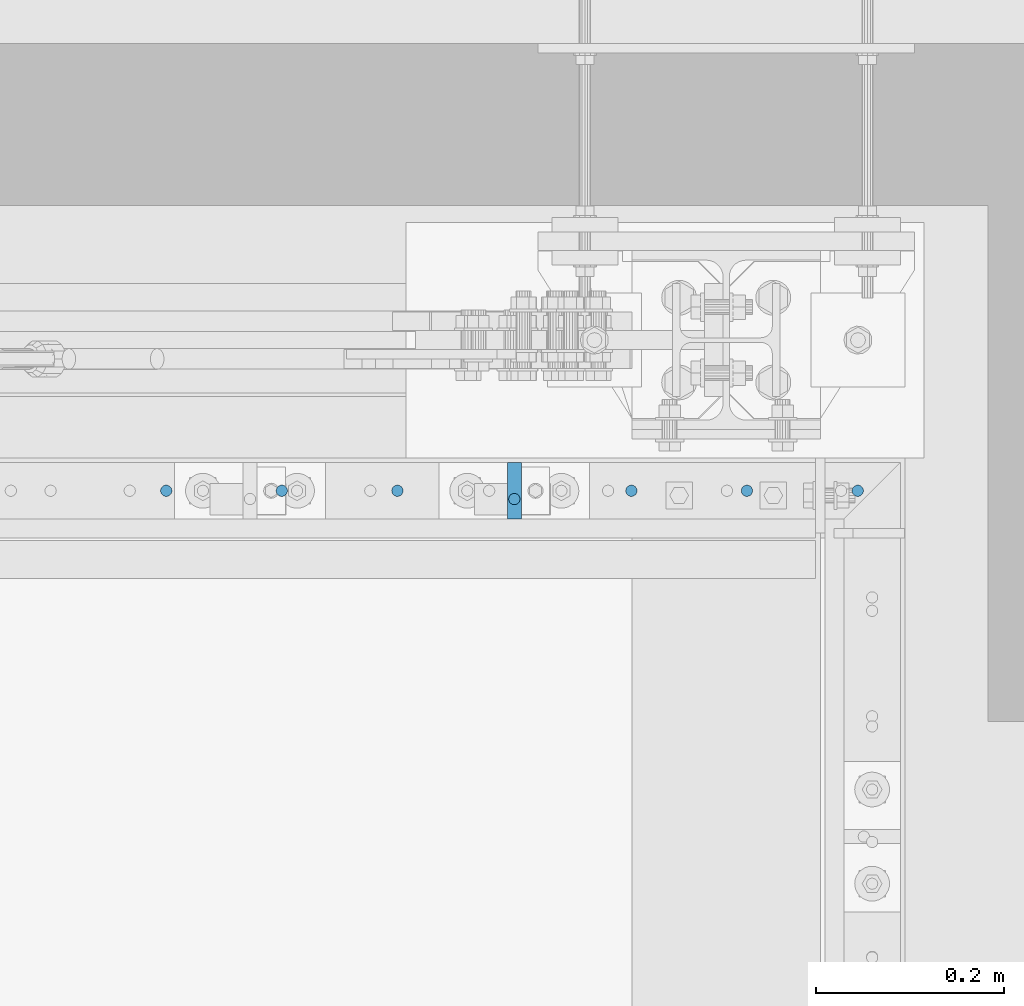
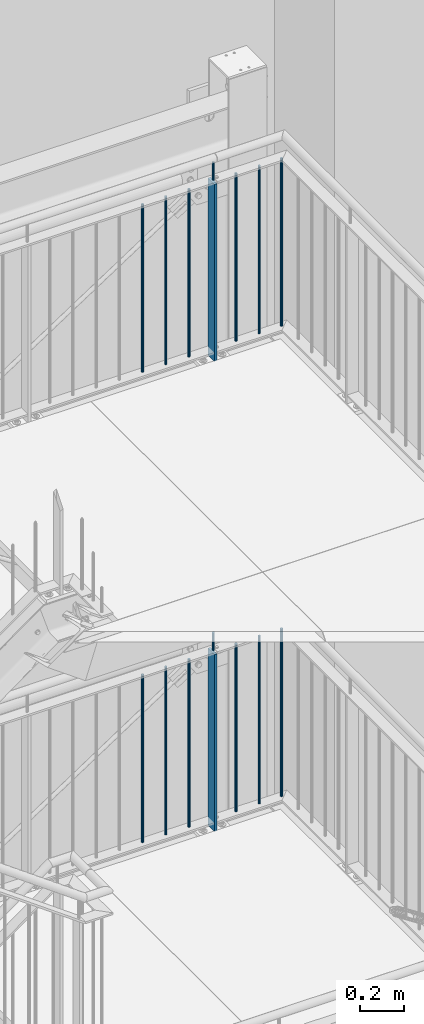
# One storey, part 110 of 831: 16 columns.
"""IFC2X3 building model written with IfcOpenShell, lengths in millimetres."""

import ifcopenshell
import ifcopenshell.guid

model = None  # the IFC model being written
_history = None  # IfcOwnerHistory: only IFC2X3 demands one
_inside = {}  # id of a spatial element -> (the spatial element, [elements in it])
_under = {}  # id of a project, library or spatial element -> (it, [spatial elements below it])
_declared = {}  # id of a project -> (the project, [libraries it declares])
_typed = {}  # id of a type object -> (the type object, [elements of that type])
_made_of = {}  # id of a material, layer set ... -> (it, [elements and type objects made of it])


def new_model(schema):
    """Start an empty IFC model of exactly this schema.

    Asked for "IFC4X3", IfcOpenShell would pick the latest addendum, in which some entities
    have other attributes; the version numbers below select the first issue.
    IFC2X3 requires an IfcOwnerHistory on every rooted entity: one is made here for all.
    """
    global model, _history
    if schema == "IFC4X3":
        model = ifcopenshell.file(schema_version=(4, 3, 0, 0))
    else:
        model = ifcopenshell.file(schema=schema)
    _inside.clear()
    _under.clear()
    _declared.clear()
    _typed.clear()
    _made_of.clear()
    _history = None
    if model.schema == "IFC2X3":
        org = make("IfcOrganization", Name="unknown")
        user = make(
            "IfcPersonAndOrganization",
            ThePerson=make("IfcPerson", FamilyName="unknown"),
            TheOrganization=org,
        )
        app = make(
            "IfcApplication",
            ApplicationDeveloper=org,
            Version="unknown",
            ApplicationFullName="unknown",
            ApplicationIdentifier="unknown",
        )
        _history = make(
            "IfcOwnerHistory",
            OwningUser=user,
            OwningApplication=app,
            ChangeAction="ADDED",
            CreationDate=0,
        )
    return model


def make(cls, **values):
    """One entity of the class cls with the attributes given. An attribute that is None is left unset."""
    return model.create_entity(
        cls, **{name: value for name, value in values.items() if value is not None}
    )


def entity(cls, *values):
    """Any entity or typed value of the class cls, its attributes in the order of the schema. None: left unset."""
    e = model.create_entity(cls)
    for i, value in enumerate(values):
        if value is not None:
            e[i] = value
    return e


def rooted(cls, **values):
    """An entity with a GlobalId (a new one), such as an element, a storey or a relation."""
    return make(cls, GlobalId=ifcopenshell.guid.new(), OwnerHistory=_history, **values)


def si_unit(unit_type, name, prefix=None):
    """IfcSIUnit, for example si_unit("LENGTHUNIT", "METRE", prefix="MILLI")."""
    return make("IfcSIUnit", UnitType=unit_type, Prefix=prefix, Name=name)


def converted_unit(unit_type, name, factor, base, dimensions=None, offset=None):
    """IfcConversionBasedUnit, such as the inch: factor (a typed value) times the base unit."""
    return make(
        "IfcConversionBasedUnit"
        if offset is None
        else "IfcConversionBasedUnitWithOffset",
        ConversionOffset=offset,
        Dimensions=None
        if dimensions is None
        else entity("IfcDimensionalExponents", *dimensions),
        UnitType=unit_type,
        Name=name,
        ConversionFactor=make(
            "IfcMeasureWithUnit", ValueComponent=factor, UnitComponent=base
        ),
    )


def assignment(units):
    """IfcUnitAssignment: the units of a project."""
    return None if units is None else make("IfcUnitAssignment", Units=units)


def point(xyz):
    """IfcCartesianPoint."""
    return None if xyz is None else make("IfcCartesianPoint", Coordinates=xyz)


def direction(xyz):
    """IfcDirection."""
    return None if xyz is None else make("IfcDirection", DirectionRatios=xyz)


def frame(location, z_axis=None, x_axis=None):
    """IfcAxis2Placement3D, a coordinate frame: its origin and axes. An axis left out is left unset."""
    return make(
        "IfcAxis2Placement3D",
        Location=point(location),
        Axis=direction(z_axis),
        RefDirection=direction(x_axis),
    )


def frame_2d(location, x_axis=None):
    """IfcAxis2Placement2D, a coordinate frame in the plane: its origin and x axis."""
    return make(
        "IfcAxis2Placement2D", Location=point(location), RefDirection=direction(x_axis)
    )


def origin():
    """The frame at (0, 0, 0) with its axes left unset."""
    return frame((0.0, 0.0, 0.0))


def origin_with_axes():
    """The frame at (0, 0, 0) with the z axis (0, 0, 1) and the x axis (1, 0, 0) written out."""
    return frame((0.0, 0.0, 0.0), z_axis=(0.0, 0.0, 1.0), x_axis=(1.0, 0.0, 0.0))


def origin_2d():
    """The frame at (0, 0) in the plane with its x axis left unset."""
    return frame_2d((0.0, 0.0))


def place(relative_to, where):
    """IfcLocalPlacement: puts the frame where relative to a parent placement (None: the world)."""
    return make(
        "IfcLocalPlacement", PlacementRelTo=relative_to, RelativePlacement=where
    )


def context(
    kind, dimensions, precision=None, world=None, true_north=None, identifier=None
):
    """IfcGeometricRepresentationContext, for example the 3D "Model" context."""
    return make(
        "IfcGeometricRepresentationContext",
        ContextIdentifier=identifier,
        ContextType=kind,
        CoordinateSpaceDimension=dimensions,
        Precision=precision,
        WorldCoordinateSystem=world,
        TrueNorth=true_north,
    )


def project(units=None, contexts=None):
    """IfcProject with its units and contexts."""
    return rooted(
        "IfcProject",
        Name="project",
        RepresentationContexts=contexts,
        UnitsInContext=assignment(units),
    )


def spatial(cls, under=None, at=None, **own):
    """A site, building, storey or space (cls), placed at a placement, below another one or the project."""
    s = rooted(cls, ObjectPlacement=at, **own)
    if under is not None:
        _under.setdefault(under.id(), (under, []))[1].append(s)
    return s


def profile(cls, at=None, kind="AREA", **sizes):
    """A parametric profile (cls). Its sizes go by their IFC names, for example OverallWidth=200.0."""
    return make(cls, ProfileType=kind, Position=at, **sizes)


def rectangle(**sizes):
    """IfcRectangleProfileDef."""
    return profile("IfcRectangleProfileDef", **sizes)


def circle(**sizes):
    """IfcCircleProfileDef."""
    return profile("IfcCircleProfileDef", **sizes)


def extrude(swept, where, along, depth):
    """IfcExtrudedAreaSolid: the profile swept, set in the frame where, extruded along a direction by depth."""
    return make(
        "IfcExtrudedAreaSolid",
        SweptArea=swept,
        Position=where,
        ExtrudedDirection=direction(along),
        Depth=depth,
    )


def clip(a, b, op="DIFFERENCE"):
    """IfcBooleanClippingResult: the solid a cut by the half space b."""
    return make(
        "IfcBooleanClippingResult", Operator=op, FirstOperand=a, SecondOperand=b
    )


def halfspace(plane, agree):
    """IfcHalfSpaceSolid: all space on one side of the plane z = 0 of the frame plane."""
    return make(
        "IfcHalfSpaceSolid",
        BaseSurface=make("IfcPlane", Position=plane),
        AgreementFlag=agree,
    )


def shape(context_of_items, identifier, shape_type, items):
    """IfcShapeRepresentation: the items that make up one representation, for example the "Body"."""
    return make(
        "IfcShapeRepresentation",
        ContextOfItems=context_of_items,
        RepresentationIdentifier=identifier,
        RepresentationType=shape_type,
        Items=items,
    )


def material(Name=None, Category=None):
    """IfcMaterial."""
    return make("IfcMaterial", Name=Name, Category=Category)


def made_of(thing, what):
    """Note that an element or type object is made of a material, layer set ...; save() writes the relation."""
    if what is not None:
        _made_of.setdefault(what.id(), (what, []))[1].append(thing)
    return thing


def element(
    cls,
    number,
    at=None,
    inside=None,
    cuts=None,
    type_object=None,
    material=None,
    context=None,
    identifier="Body",
    shape_type=None,
    held_by="IfcProductDefinitionShape",
    body=None,
    shapes=None,
    **own,
):
    """One element of the class cls, such as IfcWall. Its Tag is "e" and its number.

    at: its placement. inside: the storey or other place that contains it. cuts: it is an
    opening in that element (IfcRelVoidsElement). A single representation is given by context,
    identifier, shape_type and body (its items); several are given by shapes. held_by: the class
    of the entity that holds the representations. save() writes the other relations.
    """
    e = rooted(cls, Tag="e%d" % number, ObjectPlacement=at, **own)
    if body is not None:
        shapes = [shape(context, identifier, shape_type, body)]
    if shapes is not None:
        e.Representation = make(held_by, Representations=shapes)
    if inside is not None:
        _inside.setdefault(inside.id(), (inside, []))[1].append(e)
    if cuts is not None:
        rooted(
            "IfcRelVoidsElement", RelatingBuildingElement=cuts, RelatedOpeningElement=e
        )
    if type_object is not None:
        _typed.setdefault(type_object.id(), (type_object, []))[1].append(e)
    return made_of(e, material)


def aggregate(whole, parts):
    """IfcRelAggregates: a whole, such as a stair, and the parts it consists of."""
    return rooted("IfcRelAggregates", RelatingObject=whole, RelatedObjects=parts)


def save(model, path):
    """Write the relations noted so far, then the file.

    IfcRelAggregates (storeys below a building ...), IfcRelContainedInSpatialStructure (elements
    in a storey), IfcRelDefinesByType, IfcRelAssociatesMaterial and IfcRelDeclares: one each for
    every whole, place, type object, material and project.
    """
    for whole, parts in _under.values():
        aggregate(whole, parts)
    for where, things in _inside.values():
        rooted(
            "IfcRelContainedInSpatialStructure",
            RelatedElements=things,
            RelatingStructure=where,
        )
    for kind, things in _typed.values():
        rooted("IfcRelDefinesByType", RelatedObjects=things, RelatingType=kind)
    for what, things in _made_of.values():
        rooted("IfcRelAssociatesMaterial", RelatedObjects=things, RelatingMaterial=what)
    for by, libraries in _declared.values():
        rooted("IfcRelDeclares", RelatingContext=by, RelatedDefinitions=libraries)
    model.write(path)


model = new_model("IFC2X3")

# Units and contexts
model_context = context("Model", 3, precision=1e-09, world=origin_with_axes())
ifc_project = project(units=[si_unit("LENGTHUNIT", "METRE", prefix="MILLI"), si_unit("AREAUNIT", "SQUARE_METRE"), si_unit("VOLUMEUNIT", "CUBIC_METRE"), converted_unit("PLANEANGLEUNIT", "DEGREE", entity("IfcPlaneAngleMeasure", 0.01745329), si_unit("PLANEANGLEUNIT", "RADIAN"), dimensions=[0, 0, 0, 0, 0, 0, 0])], contexts=[model_context])

# Site, building, storey
site_placement = place(None, origin_with_axes())
site = spatial("IfcSite", under=ifc_project, at=site_placement, Name="Site", CompositionType="ELEMENT")
building_placement = place(site_placement, origin_with_axes())
building = spatial("IfcBuilding", under=site, at=building_placement, Name="Struktur 1", CompositionType="ELEMENT")
storey_placement = place(building_placement, origin_with_axes())
storey = spatial("IfcBuildingStorey", under=building, at=storey_placement, Name="Default Storey", CompositionType="ELEMENT", Elevation=0.0)

# Columns
ifc_material = material(Name="S235JR")
column_1_placement = place(None, frame((8641.713974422, 7356.736971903, 14936.223292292), z_axis=(0.0, 0.0, 1.0), x_axis=(1.0, 0.0, 0.0)))
element("IfcColumn", 1, at=column_1_placement, inside=storey, material=ifc_material, Name="Railing_Post_Landing#4", ObjectType="Railing_Post_Landing#4", context=model_context, shape_type="Clipping", body=[
    clip(clip(extrude(rectangle(XDim=15.0, YDim=60.0, at=origin_2d()), origin(), (0.0, 0.0, -1.0), 1070.646584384), halfspace(frame((-8641.713974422, -7356.736971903, -1019.722292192), z_axis=(0.0, 0.0, 1.0), x_axis=(1.0, 0.0, 0.0)), True)), halfspace(frame((-8641.713974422, -7356.736971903, -30.924292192), z_axis=(0.0, 0.0, -1.0), x_axis=(-1.0, 0.0, 0.0)), True)),
])
column_2_placement = place(None, frame((8271.963926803, 7356.736971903, 14918.785281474), z_axis=(0.0, 0.0, 1.0), x_axis=(1.0, 0.0, 0.0)))
element("IfcColumn", 2, at=column_2_placement, inside=storey, material=ifc_material, Name="Railing_Picket_Landing#25", ObjectType="Railing_Picket_Landing#25", context=model_context, shape_type="Clipping", body=[
    clip(clip(extrude(circle(Radius=6.0, at=origin_2d()), origin(), (0.0, 0.0, -1.0), 965.770562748), halfspace(frame((-8271.963926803, -7356.736971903, -13.486281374), z_axis=(0.0, 0.0, -1.0), x_axis=(-1.0, 0.0, 0.0)), True)), halfspace(frame((-8271.963926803, -7356.736971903, -952.284281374), z_axis=(0.0, 0.0, 1.0), x_axis=(1.0, 0.0, 0.0)), True)),
])
column_3_placement = place(None, frame((8394.713950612, 7356.736971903, 14918.785281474), z_axis=(0.0, 0.0, 1.0), x_axis=(1.0, 0.0, 0.0)))
element("IfcColumn", 3, at=column_3_placement, inside=storey, material=ifc_material, Name="Railing_Picket_Landing#26", ObjectType="Railing_Picket_Landing#26", context=model_context, shape_type="Clipping", body=[
    clip(clip(extrude(circle(Radius=6.0, at=origin_2d()), origin(), (0.0, 0.0, -1.0), 965.770562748), halfspace(frame((-8394.713950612, -7356.736971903, -13.486281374), z_axis=(0.0, 0.0, -1.0), x_axis=(-1.0, 0.0, 0.0)), True)), halfspace(frame((-8394.713950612, -7356.736971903, -952.284281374), z_axis=(0.0, 0.0, 1.0), x_axis=(1.0, 0.0, 0.0)), True)),
])
column_4_placement = place(None, frame((8517.463974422, 7356.736971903, 14918.785281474), z_axis=(0.0, 0.0, 1.0), x_axis=(1.0, 0.0, 0.0)))
element("IfcColumn", 4, at=column_4_placement, inside=storey, material=ifc_material, Name="Railing_Picket_Landing#27", ObjectType="Railing_Picket_Landing#27", context=model_context, shape_type="Clipping", body=[
    clip(clip(extrude(circle(Radius=6.0, at=origin_2d()), origin(), (0.0, 0.0, -1.0), 965.770562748), halfspace(frame((-8517.463974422, -7356.736971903, -13.486281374), z_axis=(0.0, 0.0, -1.0), x_axis=(-1.0, 0.0, 0.0)), True)), halfspace(frame((-8517.463974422, -7356.736971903, -952.284281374), z_axis=(0.0, 0.0, 1.0), x_axis=(1.0, 0.0, 0.0)), True)),
])
column_5_placement = place(None, frame((8765.963974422, 7356.736971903, 14918.785281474), z_axis=(0.0, 0.0, 1.0), x_axis=(1.0, 0.0, 0.0)))
element("IfcColumn", 5, at=column_5_placement, inside=storey, material=ifc_material, Name="Railing_Picket_Landing#28", ObjectType="Railing_Picket_Landing#28", context=model_context, shape_type="Clipping", body=[
    clip(clip(extrude(circle(Radius=6.0, at=origin_2d()), origin(), (0.0, 0.0, -1.0), 965.770562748), halfspace(frame((-8765.963974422, -7356.736971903, -13.486281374), z_axis=(0.0, 0.0, -1.0), x_axis=(-1.0, 0.0, 0.0)), True)), halfspace(frame((-8765.963974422, -7356.736971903, -952.284281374), z_axis=(0.0, 0.0, 1.0), x_axis=(1.0, 0.0, 0.0)), True)),
])
column_6_placement = place(None, frame((8888.713998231, 7356.736971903, 14918.785281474), z_axis=(0.0, 0.0, 1.0), x_axis=(1.0, 0.0, 0.0)))
element("IfcColumn", 6, at=column_6_placement, inside=storey, material=ifc_material, Name="Railing_Picket_Landing#29", ObjectType="Railing_Picket_Landing#29", context=model_context, shape_type="Clipping", body=[
    clip(clip(extrude(circle(Radius=6.0, at=origin_2d()), origin(), (0.0, 0.0, -1.0), 965.770562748), halfspace(frame((-8888.713998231, -7356.736971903, -13.486281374), z_axis=(0.0, 0.0, -1.0), x_axis=(-1.0, 0.0, 0.0)), True)), halfspace(frame((-8888.713998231, -7356.736971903, -952.284281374), z_axis=(0.0, 0.0, 1.0), x_axis=(1.0, 0.0, 0.0)), True)),
])
column_7_placement = place(None, frame((9006.464022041, 7356.736971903, 14918.785281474), z_axis=(0.0, 0.0, 1.0), x_axis=(1.0, 0.0, 0.0)))
element("IfcColumn", 7, at=column_7_placement, inside=storey, material=ifc_material, Name="Railing_Picket_Landing#30", ObjectType="Railing_Picket_Landing#30", context=model_context, shape_type="Clipping", body=[
    clip(clip(extrude(circle(Radius=6.0, at=origin_2d()), origin(), (0.0, 0.0, -1.0), 965.770562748), halfspace(frame((-9006.464022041, -7356.736971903, -13.486281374), z_axis=(0.0, 0.0, -1.0), x_axis=(-1.0, 0.0, 0.0)), True)), halfspace(frame((-9006.464022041, -7356.736971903, -952.284281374), z_axis=(0.0, 0.0, 1.0), x_axis=(1.0, 0.0, 0.0)), True)),
])
column_8_placement = place(None, frame((8641.713974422, 7347.936971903, 15023.785281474), z_axis=(0.0, 0.0, 1.0), x_axis=(0.0, -1.0, 0.0)))
element("IfcColumn", 8, at=column_8_placement, inside=storey, material=ifc_material, Name="Bar#4", ObjectType="Bar#4", context=model_context, shape_type="Clipping", body=[
    clip(clip(extrude(circle(Radius=6.0, at=origin_2d()), origin(), (0.0, 0.0, -1.0), 116.970562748), halfspace(frame((7347.936971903, -8641.713974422, -8.486281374), z_axis=(0.0, 0.0, -1.0), x_axis=(0.0, -1.0, 0.0)), True)), halfspace(frame((7347.936971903, -8641.713974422, -108.484281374), z_axis=(0.0, 0.0, 1.0), x_axis=(0.0, 1.0, 0.0)), True)),
])
column_9_placement = place(None, frame((8641.713974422, 7356.736971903, 17563.723292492), z_axis=(0.0, 0.0, 1.0), x_axis=(1.0, 0.0, 0.0)))
element("IfcColumn", 9, at=column_9_placement, inside=storey, material=ifc_material, Name="Railing_Post_Landing#4", ObjectType="Railing_Post_Landing#4", context=model_context, shape_type="Clipping", body=[
    clip(clip(extrude(rectangle(XDim=15.0, YDim=60.0, at=origin_2d()), origin(), (0.0, 0.0, -1.0), 1070.646584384), halfspace(frame((-8641.713974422, -7356.736971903, -1019.722292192), z_axis=(0.0, 0.0, 1.0), x_axis=(1.0, 0.0, 0.0)), True)), halfspace(frame((-8641.713974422, -7356.736971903, -30.924292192), z_axis=(0.0, 0.0, -1.0), x_axis=(-1.0, 0.0, 0.0)), True)),
])
column_10_placement = place(None, frame((8271.963926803, 7356.736971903, 17546.285281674), z_axis=(0.0, 0.0, 1.0), x_axis=(1.0, 0.0, 0.0)))
element("IfcColumn", 10, at=column_10_placement, inside=storey, material=ifc_material, Name="Railing_Picket_Landing#25", ObjectType="Railing_Picket_Landing#25", context=model_context, shape_type="Clipping", body=[
    clip(clip(extrude(circle(Radius=6.0, at=origin_2d()), origin(), (0.0, 0.0, -1.0), 965.770562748), halfspace(frame((-8271.963926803, -7356.736971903, -13.486281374), z_axis=(0.0, 0.0, -1.0), x_axis=(-1.0, 0.0, 0.0)), True)), halfspace(frame((-8271.963926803, -7356.736971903, -952.284281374), z_axis=(0.0, 0.0, 1.0), x_axis=(1.0, 0.0, 0.0)), True)),
])
column_11_placement = place(None, frame((8394.713950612, 7356.736971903, 17546.285281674), z_axis=(0.0, 0.0, 1.0), x_axis=(1.0, 0.0, 0.0)))
element("IfcColumn", 11, at=column_11_placement, inside=storey, material=ifc_material, Name="Railing_Picket_Landing#26", ObjectType="Railing_Picket_Landing#26", context=model_context, shape_type="Clipping", body=[
    clip(clip(extrude(circle(Radius=6.0, at=origin_2d()), origin(), (0.0, 0.0, -1.0), 965.770562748), halfspace(frame((-8394.713950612, -7356.736971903, -13.486281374), z_axis=(0.0, 0.0, -1.0), x_axis=(-1.0, 0.0, 0.0)), True)), halfspace(frame((-8394.713950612, -7356.736971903, -952.284281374), z_axis=(0.0, 0.0, 1.0), x_axis=(1.0, 0.0, 0.0)), True)),
])
column_12_placement = place(None, frame((8517.463974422, 7356.736971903, 17546.285281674), z_axis=(0.0, 0.0, 1.0), x_axis=(1.0, 0.0, 0.0)))
element("IfcColumn", 12, at=column_12_placement, inside=storey, material=ifc_material, Name="Railing_Picket_Landing#27", ObjectType="Railing_Picket_Landing#27", context=model_context, shape_type="Clipping", body=[
    clip(clip(extrude(circle(Radius=6.0, at=origin_2d()), origin(), (0.0, 0.0, -1.0), 965.770562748), halfspace(frame((-8517.463974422, -7356.736971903, -13.486281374), z_axis=(0.0, 0.0, -1.0), x_axis=(-1.0, 0.0, 0.0)), True)), halfspace(frame((-8517.463974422, -7356.736971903, -952.284281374), z_axis=(0.0, 0.0, 1.0), x_axis=(1.0, 0.0, 0.0)), True)),
])
column_13_placement = place(None, frame((8765.963974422, 7356.736971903, 17546.285281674), z_axis=(0.0, 0.0, 1.0), x_axis=(1.0, 0.0, 0.0)))
element("IfcColumn", 13, at=column_13_placement, inside=storey, material=ifc_material, Name="Railing_Picket_Landing#28", ObjectType="Railing_Picket_Landing#28", context=model_context, shape_type="Clipping", body=[
    clip(clip(extrude(circle(Radius=6.0, at=origin_2d()), origin(), (0.0, 0.0, -1.0), 965.770562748), halfspace(frame((-8765.963974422, -7356.736971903, -13.486281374), z_axis=(0.0, 0.0, -1.0), x_axis=(-1.0, 0.0, 0.0)), True)), halfspace(frame((-8765.963974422, -7356.736971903, -952.284281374), z_axis=(0.0, 0.0, 1.0), x_axis=(1.0, 0.0, 0.0)), True)),
])
column_14_placement = place(None, frame((8888.713998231, 7356.736971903, 17546.285281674), z_axis=(0.0, 0.0, 1.0), x_axis=(1.0, 0.0, 0.0)))
element("IfcColumn", 14, at=column_14_placement, inside=storey, material=ifc_material, Name="Railing_Picket_Landing#29", ObjectType="Railing_Picket_Landing#29", context=model_context, shape_type="Clipping", body=[
    clip(clip(extrude(circle(Radius=6.0, at=origin_2d()), origin(), (0.0, 0.0, -1.0), 965.770562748), halfspace(frame((-8888.713998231, -7356.736971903, -13.486281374), z_axis=(0.0, 0.0, -1.0), x_axis=(-1.0, 0.0, 0.0)), True)), halfspace(frame((-8888.713998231, -7356.736971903, -952.284281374), z_axis=(0.0, 0.0, 1.0), x_axis=(1.0, 0.0, 0.0)), True)),
])
column_15_placement = place(None, frame((9006.464022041, 7356.736971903, 17546.285281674), z_axis=(0.0, 0.0, 1.0), x_axis=(1.0, 0.0, 0.0)))
element("IfcColumn", 15, at=column_15_placement, inside=storey, material=ifc_material, Name="Railing_Picket_Landing#30", ObjectType="Railing_Picket_Landing#30", context=model_context, shape_type="Clipping", body=[
    clip(clip(extrude(circle(Radius=6.0, at=origin_2d()), origin(), (0.0, 0.0, -1.0), 965.770562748), halfspace(frame((-9006.464022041, -7356.736971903, -13.486281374), z_axis=(0.0, 0.0, -1.0), x_axis=(-1.0, 0.0, 0.0)), True)), halfspace(frame((-9006.464022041, -7356.736971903, -952.284281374), z_axis=(0.0, 0.0, 1.0), x_axis=(1.0, 0.0, 0.0)), True)),
])
column_16_placement = place(None, frame((8641.713974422, 7347.936971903, 17651.285281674), z_axis=(0.0, 0.0, 1.0), x_axis=(0.0, -1.0, 0.0)))
element("IfcColumn", 16, at=column_16_placement, inside=storey, material=ifc_material, Name="Bar#4", ObjectType="Bar#4", context=model_context, shape_type="Clipping", body=[
    clip(clip(extrude(circle(Radius=6.0, at=origin_2d()), origin(), (0.0, 0.0, -1.0), 116.970562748), halfspace(frame((7347.936971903, -8641.713974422, -8.486281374), z_axis=(0.0, 0.0, -1.0), x_axis=(0.0, -1.0, 0.0)), True)), halfspace(frame((7347.936971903, -8641.713974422, -108.484281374), z_axis=(0.0, 0.0, 1.0), x_axis=(0.0, 1.0, 0.0)), True)),
])

save(model, "model.ifc")
